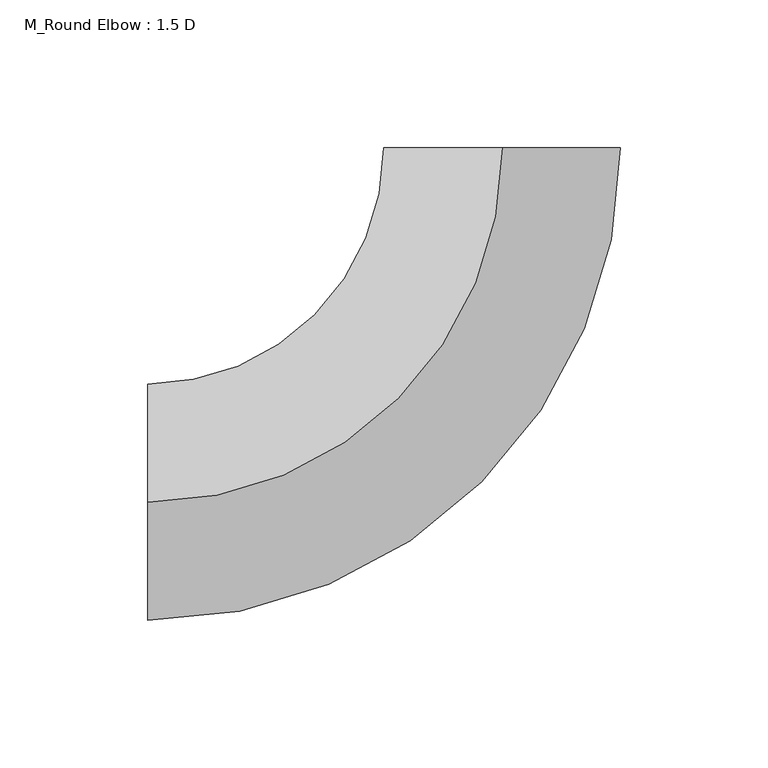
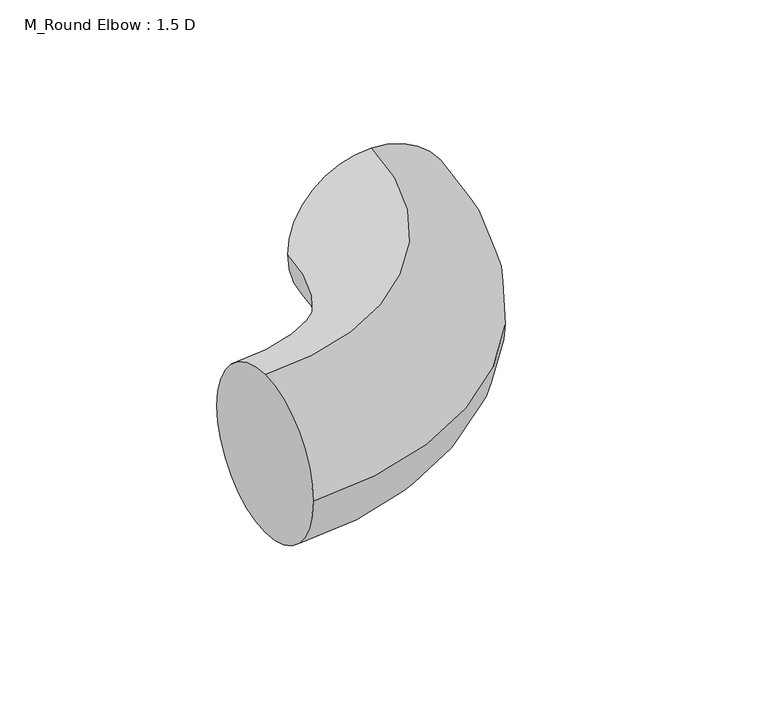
"""IFC4 building model written with IfcOpenShell, lengths in millimetres: duct fitting geometry, M_Round Elbow : 1.5 D."""

from ifc_helpers import new_model, si_unit, point, frame, origin, place, context, project, spatial, circle_curve, ellipse_curve, trimmed, source, transform, mapped, element, save
from ifc_brep_helpers import plane_surface, revolved_surface, advanced_brep


def m_round_elbow_1_5_d_ca912ff4(model_context):
    return source(origin(), model_context, "Body", "AdvancedBrep", [
        advanced_brep(
        [(-120.0, 0.0, 40.0), (-120.0, 40.0, 0.0), (-120.0, 0.0, -40.0), (-120.0, -40.0, 0.0), (0.0, 120.0, 40.0), (40.0, 120.0, 0.0), (0.0, 120.0, -40.0), (-40.0, 120.0, 0.0)],
        [
            (0, 1, circle_curve(frame((-120.0, 0.0, 0.0), z_axis=(-1.0, 0.0, 0.0), x_axis=(0.0, 1.0, 0.0)), 40.0)),
            (1, 2, circle_curve(frame((-120.0, 0.0, 0.0), z_axis=(-1.0, 0.0, 0.0), x_axis=(0.0, 1.0, 0.0)), 40.0)),
            (2, 3, circle_curve(frame((-120.0, 0.0, 0.0), z_axis=(-1.0, 0.0, 0.0), x_axis=(0.0, 1.0, 0.0)), 40.0)),
            (3, 0, circle_curve(frame((-120.0, 0.0, 0.0), z_axis=(-1.0, 0.0, 0.0), x_axis=(0.0, 1.0, 0.0)), 40.0)),
            (4, 5, circle_curve(frame((0.0, 120.0, 0.0), z_axis=(0.0, 1.0, 0.0), x_axis=(-1.0, 0.0, 0.0)), 40.0)),
            (5, 6, circle_curve(frame((0.0, 120.0, 0.0), z_axis=(0.0, 1.0, 0.0), x_axis=(-1.0, 0.0, 0.0)), 40.0)),
            (6, 7, circle_curve(frame((0.0, 120.0, 0.0), z_axis=(0.0, 1.0, 0.0), x_axis=(-1.0, 0.0, 0.0)), 40.0)),
            (7, 4, circle_curve(frame((0.0, 120.0, 0.0), z_axis=(0.0, 1.0, 0.0), x_axis=(-1.0, 0.0, 0.0)), 40.0)),
            (7, 1, circle_curve(frame((-120.0, 120.0, 0.0), z_axis=(0.0, 0.0, -1.0), x_axis=(0.0, -1.0, 0.0)), 80.0)),
            (0, 4, circle_curve(frame((-120.0, 120.0, 40.0), z_axis=(0.0, 0.0, 1.0), x_axis=(0.0, -1.0, 0.0)), 120.0)),
            (6, 2, circle_curve(frame((-120.0, 120.0, -40.0), z_axis=(0.0, 0.0, -1.0), x_axis=(0.0, -1.0, 0.0)), 120.0)),
            (5, 3, circle_curve(frame((-120.0, 120.0, 0.0), z_axis=(0.0, 0.0, -1.0), x_axis=(0.0, -1.0, 0.0)), 160.0)),
        ],
        [
            plane_surface(frame((-120.0, 0.0, 0.0), z_axis=(-1.0, 0.0, 0.0), x_axis=(0.0, 0.0, 1.0))),
            plane_surface(frame((0.0, 120.0, 0.0), z_axis=(0.0, 1.0, 0.0), x_axis=(0.0, 0.0, 1.0))),
            revolved_surface(trimmed(ellipse_curve(frame((-120.0, 0.0, 0.0), z_axis=(-1.0, 0.0, 0.0), x_axis=(0.0, 1.0, 0.0)), 40.0, 40.0), [point((-120.0, 0.0, 40.0))], [point((-120.0, 40.0, 0.0))], True, "CARTESIAN"), (-120.0, 120.0, 0.0), (0.0, 0.0, 1.0)),
            revolved_surface(trimmed(ellipse_curve(frame((-120.0, 0.0, 0.0), z_axis=(-1.0, 0.0, 0.0), x_axis=(0.0, 1.0, 0.0)), 40.0, 40.0), [point((-120.0, 40.0, 0.0))], [point((-120.0, 0.0, -40.0))], True, "CARTESIAN"), (-120.0, 120.0, 0.0), (0.0, 0.0, 1.0)),
            revolved_surface(trimmed(ellipse_curve(frame((-120.0, 0.0, 0.0), z_axis=(-1.0, 0.0, 0.0), x_axis=(0.0, 1.0, 0.0)), 40.0, 40.0), [point((-120.0, 0.0, -40.0))], [point((-120.0, -40.0, 0.0))], True, "CARTESIAN"), (-120.0, 120.0, 0.0), (0.0, 0.0, 1.0)),
            revolved_surface(trimmed(ellipse_curve(frame((-120.0, 0.0, 0.0), z_axis=(-1.0, 0.0, 0.0), x_axis=(0.0, 1.0, 0.0)), 40.0, 40.0), [point((-120.0, -40.0, 0.0))], [point((-120.0, 0.0, 40.0))], True, "CARTESIAN"), (-120.0, 120.0, 0.0), (0.0, 0.0, 1.0)),
        ],
        [
            (0, [[1, 2, 3, 4]]),
            (1, [[5, 6, 7, 8]]),
            (2, [[9, -1, 10, -8]]),
            (3, [[11, -2, -9, -7]]),
            (4, [[12, -3, -11, -6]]),
            (5, [[-10, -4, -12, -5]]),
        ],
    ),
    ])


if __name__ == "__main__":
    model = new_model("IFC4")
    model_context = context("Model", 3, world=origin())
    ifc_project = project(units=[si_unit("LENGTHUNIT", "METRE", prefix="MILLI")], contexts=[model_context])
    site = spatial("IfcSite", under=ifc_project)
    building = spatial("IfcBuilding", under=site)
    placement = place(None, origin())
    m_round_elbow_1_5_d_shape = m_round_elbow_1_5_d_ca912ff4(model_context)
    element("IfcDuctFitting", 1, ObjectType="M_Round Elbow : 1.5 D", at=placement, inside=building, context=model_context, shape_type="MappedRepresentation", body=[
        mapped(m_round_elbow_1_5_d_shape, transform((0.0, 0.0, 0.0), x_axis=(1.0, 0.0, 0.0), y_axis=(0.0, 1.0, 0.0), z_axis=(0.0, 0.0, 1.0))),
    ])
    save(model, "model.ifc")
